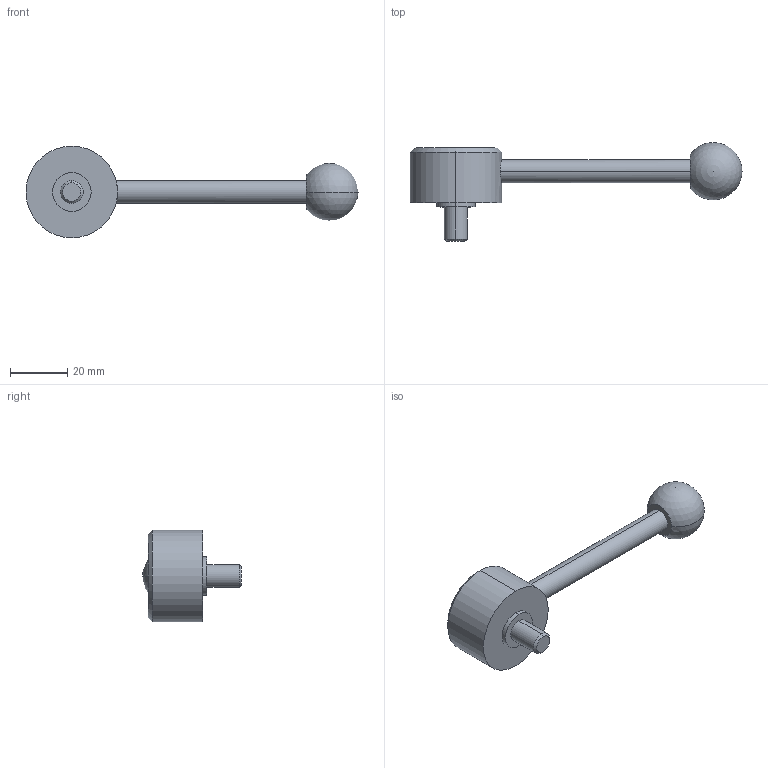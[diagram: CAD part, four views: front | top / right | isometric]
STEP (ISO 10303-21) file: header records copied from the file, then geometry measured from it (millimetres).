
FILE_DESCRIPTION (( 'STEP AP214' ), '1' );
FILE_NAME ('125.5-32-M8-12-D.step', '2020-02-18T11:25:32', ( '' ), ( '' ), 'SwSTEP 2.0', 'SolidWorks 2019', '' );
FILE_SCHEMA (( 'AUTOMOTIVE_DESIGN' ));
Length unit declared in the file: millimetre
Products named in the file (1): 125.5-32-M8-12-D
Bounding box: 116 x 34.47 x 32 mm (x, y, z)
Volume: 23453.4 mm3; surface area: 6598.9 mm2
Topology: 1 solids, 1 shells, 22 faces, 47 edges, 30 vertices
Faces by surface type: cylinder 10, plane 6, cone 4, sphere 2
Entity records: 730 total; most frequent: CARTESIAN_POINT 158, DIRECTION 112, ORIENTED_EDGE 84, AXIS2_PLACEMENT_3D 49, EDGE_CURVE 42, VERTEX_POINT 27, EDGE_LOOP 27, CIRCLE 26
